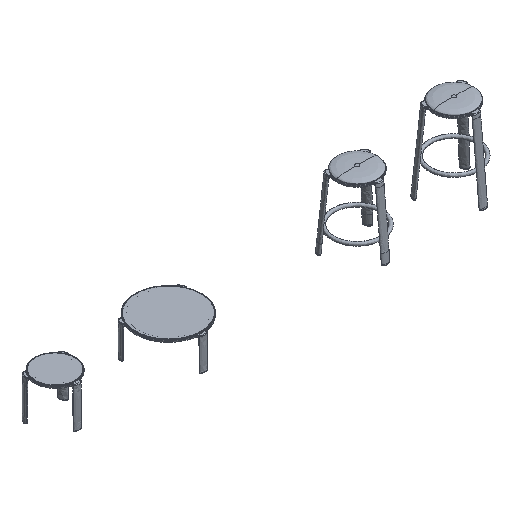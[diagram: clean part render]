
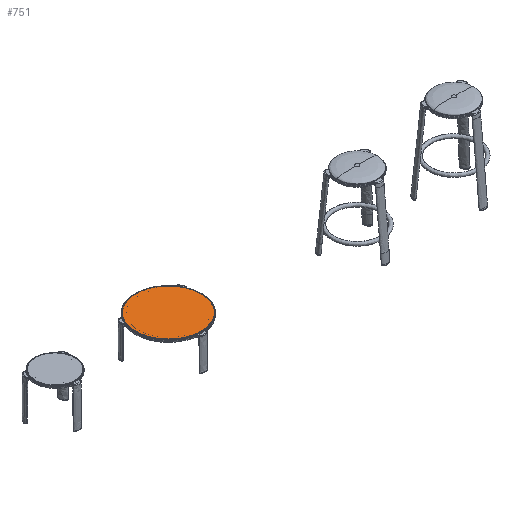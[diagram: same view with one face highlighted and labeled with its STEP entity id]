
A CAD part, isometric view. The second image highlights one B-rep face of the part: STEP entity #751.
In plain terms, the highlighted planar face has unit normal (0, 0, 1).
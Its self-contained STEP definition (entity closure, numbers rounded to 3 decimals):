
#751=ADVANCED_FACE('',(#1347),#8098,.T.);
#1347=FACE_OUTER_BOUND('',#1965,.T.);
#1965=EDGE_LOOP('',(#4434));
#4434=ORIENTED_EDGE('',*,*,#5816,.T.);
#5816=EDGE_CURVE('',#7948,#7948,#6457,.T.);
#6457=(
BOUNDED_CURVE()
B_SPLINE_CURVE(2,(#69052,#69053,#69054,#69055,#69056,#69057,#69058,#69059,
#69060),.UNSPECIFIED.,.T.,.F.)
B_SPLINE_CURVE_WITH_KNOTS((3,2,2,2,3),(0.,459.458,918.915,
1378.373,1837.831),.UNSPECIFIED.)
CURVE()
GEOMETRIC_REPRESENTATION_ITEM()
RATIONAL_B_SPLINE_CURVE((1.,0.707,1.,0.707,1.,0.707,
1.,0.707,1.))
REPRESENTATION_ITEM('')
);
#7948=VERTEX_POINT('',#69018);
#8098=PLANE('',#8767);
#8767=AXIS2_PLACEMENT_3D('',#68978,#8982,$);
#8982=DIRECTION('',(0.,0.,1.));
#68978=CARTESIAN_POINT('',(-21997.084,-667.365,306.));
#69018=CARTESIAN_POINT('',(-21406.234,-369.015,306.));
#69052=CARTESIAN_POINT('',(-21406.234,-369.015,306.));
#69053=CARTESIAN_POINT('',(-21406.234,-76.515,306.));
#69054=CARTESIAN_POINT('',(-21698.734,-76.515,306.));
#69055=CARTESIAN_POINT('',(-21991.234,-76.515,306.));
#69056=CARTESIAN_POINT('',(-21991.234,-369.015,306.));
#69057=CARTESIAN_POINT('',(-21991.234,-661.515,306.));
#69058=CARTESIAN_POINT('',(-21698.734,-661.515,306.));
#69059=CARTESIAN_POINT('',(-21406.234,-661.515,306.));
#69060=CARTESIAN_POINT('',(-21406.234,-369.015,306.));
